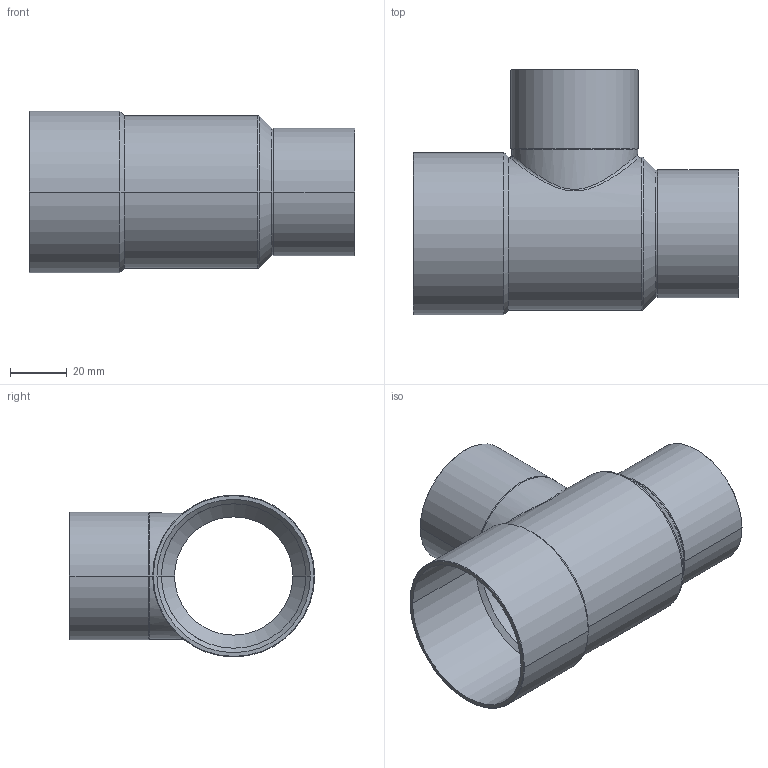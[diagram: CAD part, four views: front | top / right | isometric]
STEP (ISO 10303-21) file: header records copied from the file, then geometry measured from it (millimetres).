
FILE_DESCRIPTION((''),'2;1');
FILE_NAME('G:\Technics\CAD\Bauteile\15130\15130544242.stp','2005-11-03T13:43:19',('boden'),(''),'Autodesk Inventor 8','Autodesk Inventor 8','');
FILE_SCHEMA(('AUTOMOTIVE_DESIGN { 1 0 10303 214 1 1 1 1 }'));
Length unit declared in the file: millimetre
Products named in the file (1): 15130544242
Bounding box: 115 x 86.58 x 57.15 mm (x, y, z)
Volume: 32756.1 mm3; surface area: 44943.6 mm2
Topology: 1 solids, 1 shells, 57 faces, 128 edges, 72 vertices
Faces by surface type: cone 26, cylinder 24, plane 3, torus 2, bspline 2
Entity records: 2017 total; most frequent: CARTESIAN_POINT 708, DIRECTION 292, ORIENTED_EDGE 256, EDGE_CURVE 128, AXIS2_PLACEMENT_3D 120, VERTEX_POINT 72, CIRCLE 64, EDGE_LOOP 60
